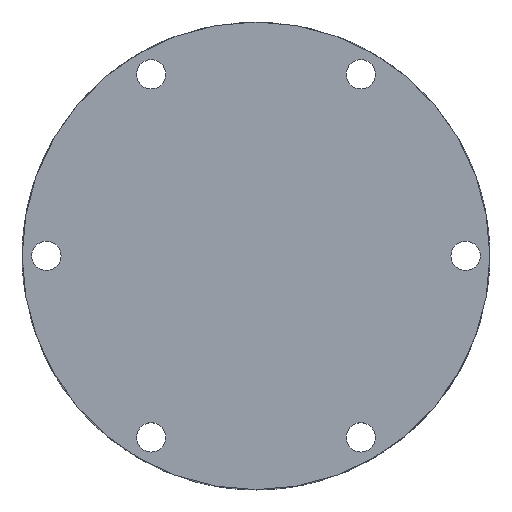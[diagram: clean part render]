
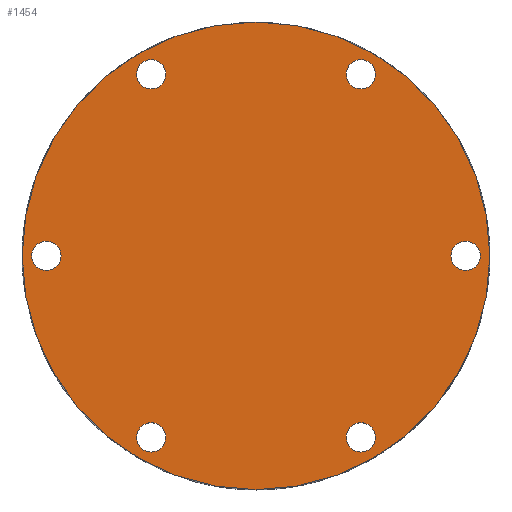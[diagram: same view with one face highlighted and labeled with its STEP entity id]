
A CAD part, top view. The second image highlights one B-rep face of the part: STEP entity #1454.
In plain terms, the highlighted planar face has unit normal (0, 0, 1).
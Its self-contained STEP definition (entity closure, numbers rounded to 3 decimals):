
#686 = VERTEX_POINT('',#687);
#687 = CARTESIAN_POINT('',(135.14,124.5,249.5));
#693 = EDGE_CURVE('',#686,#686,#694,.T.);
#694 = CIRCLE('',#695,25.5);
#695 = AXIS2_PLACEMENT_3D('',#696,#697,#698);
#696 = CARTESIAN_POINT('',(135.14,150.,249.5));
#697 = DIRECTION('',(-0.,0.,1.));
#698 = DIRECTION('',(0.,-1.,0.));
#1454 = ADVANCED_FACE('',(#1455,#1458,#1469,#1480,#1491,#1502,#1513),
  #1524,.T.);
#1455 = FACE_BOUND('',#1456,.T.);
#1456 = EDGE_LOOP('',(#1457));
#1457 = ORIENTED_EDGE('',*,*,#693,.T.);
#1458 = FACE_BOUND('',#1459,.T.);
#1459 = EDGE_LOOP('',(#1460));
#1460 = ORIENTED_EDGE('',*,*,#1461,.T.);
#1461 = EDGE_CURVE('',#1462,#1462,#1464,.T.);
#1462 = VERTEX_POINT('',#1463);
#1463 = CARTESIAN_POINT('',(122.91,171.183,249.5));
#1464 = CIRCLE('',#1465,1.6);
#1465 = AXIS2_PLACEMENT_3D('',#1466,#1467,#1468);
#1466 = CARTESIAN_POINT('',(123.71,169.797,249.5));
#1467 = DIRECTION('',(0.,0.,-1.));
#1468 = DIRECTION('',(-0.5,0.866,0.));
#1469 = FACE_BOUND('',#1470,.T.);
#1470 = EDGE_LOOP('',(#1471));
#1471 = ORIENTED_EDGE('',*,*,#1472,.T.);
#1472 = EDGE_CURVE('',#1473,#1473,#1475,.T.);
#1473 = VERTEX_POINT('',#1474);
#1474 = CARTESIAN_POINT('',(113.88,150.,249.5));
#1475 = CIRCLE('',#1476,1.6);
#1476 = AXIS2_PLACEMENT_3D('',#1477,#1478,#1479);
#1477 = CARTESIAN_POINT('',(112.28,150.,249.5));
#1478 = DIRECTION('',(0.,0.,-1.));
#1479 = DIRECTION('',(1.,0.,0.));
#1480 = FACE_BOUND('',#1481,.T.);
#1481 = EDGE_LOOP('',(#1482));
#1482 = ORIENTED_EDGE('',*,*,#1483,.T.);
#1483 = EDGE_CURVE('',#1484,#1484,#1486,.T.);
#1484 = VERTEX_POINT('',#1485);
#1485 = CARTESIAN_POINT('',(124.51,131.588,249.5));
#1486 = CIRCLE('',#1487,1.6);
#1487 = AXIS2_PLACEMENT_3D('',#1488,#1489,#1490);
#1488 = CARTESIAN_POINT('',(123.71,130.203,249.5));
#1489 = DIRECTION('',(0.,0.,-1.));
#1490 = DIRECTION('',(0.5,0.866,0.));
#1491 = FACE_BOUND('',#1492,.T.);
#1492 = EDGE_LOOP('',(#1493));
#1493 = ORIENTED_EDGE('',*,*,#1494,.T.);
#1494 = EDGE_CURVE('',#1495,#1495,#1497,.T.);
#1495 = VERTEX_POINT('',#1496);
#1496 = CARTESIAN_POINT('',(147.37,171.183,249.5));
#1497 = CIRCLE('',#1498,1.6);
#1498 = AXIS2_PLACEMENT_3D('',#1499,#1500,#1501);
#1499 = CARTESIAN_POINT('',(146.57,169.797,249.5));
#1500 = DIRECTION('',(0.,0.,-1.));
#1501 = DIRECTION('',(0.5,0.866,0.));
#1502 = FACE_BOUND('',#1503,.T.);
#1503 = EDGE_LOOP('',(#1504));
#1504 = ORIENTED_EDGE('',*,*,#1505,.T.);
#1505 = EDGE_CURVE('',#1506,#1506,#1508,.T.);
#1506 = VERTEX_POINT('',#1507);
#1507 = CARTESIAN_POINT('',(159.6,150.,249.5));
#1508 = CIRCLE('',#1509,1.6);
#1509 = AXIS2_PLACEMENT_3D('',#1510,#1511,#1512);
#1510 = CARTESIAN_POINT('',(158.,150.,249.5));
#1511 = DIRECTION('',(0.,0.,-1.));
#1512 = DIRECTION('',(1.,0.,0.));
#1513 = FACE_BOUND('',#1514,.T.);
#1514 = EDGE_LOOP('',(#1515));
#1515 = ORIENTED_EDGE('',*,*,#1516,.T.);
#1516 = EDGE_CURVE('',#1517,#1517,#1519,.T.);
#1517 = VERTEX_POINT('',#1518);
#1518 = CARTESIAN_POINT('',(145.77,131.588,249.5));
#1519 = CIRCLE('',#1520,1.6);
#1520 = AXIS2_PLACEMENT_3D('',#1521,#1522,#1523);
#1521 = CARTESIAN_POINT('',(146.57,130.203,249.5));
#1522 = DIRECTION('',(0.,0.,-1.));
#1523 = DIRECTION('',(-0.5,0.866,0.));
#1524 = PLANE('',#1525);
#1525 = AXIS2_PLACEMENT_3D('',#1526,#1527,#1528);
#1526 = CARTESIAN_POINT('',(135.14,150.,249.5));
#1527 = DIRECTION('',(0.,0.,1.));
#1528 = DIRECTION('',(0.,-1.,0.));
